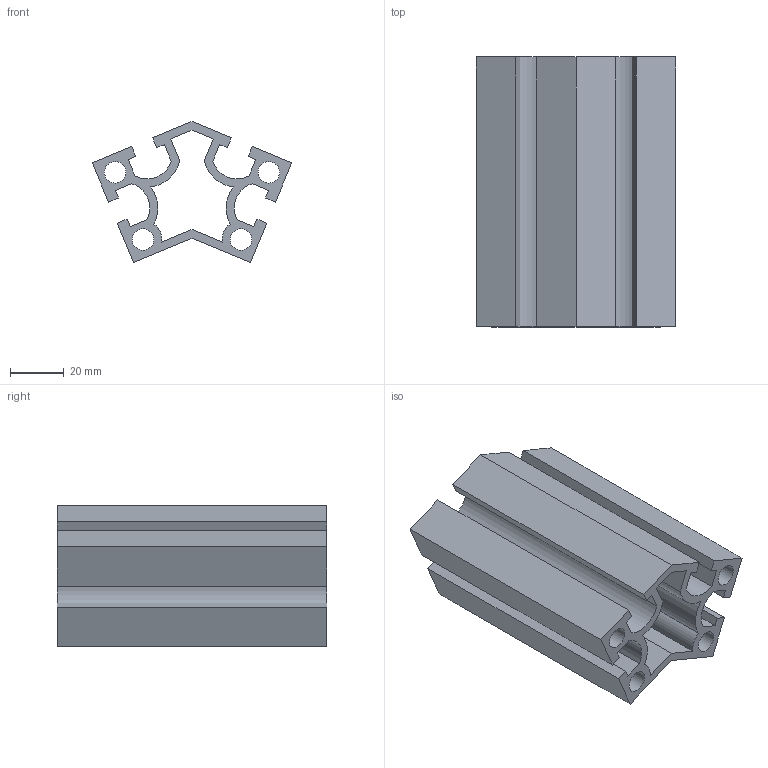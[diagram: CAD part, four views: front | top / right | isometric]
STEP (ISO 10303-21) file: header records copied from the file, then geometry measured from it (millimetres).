
FILE_DESCRIPTION(/* description */ ('Unknown'),/* implementation_level */ '2;1');
FILE_NAME(/* name */ 'NMW40135',/* time_stamp */ '2026-08-31T13:18:57+08:00',/* author */ ('Unknown'),/* organization */ ('Unknown'),/* preprocessor_version */ 'ST-DEVELOPER v16.7',/* originating_system */ 'DEX',/* authorisation */ $);
FILE_SCHEMA (('AUTOMOTIVE_DESIGN {1 0 10303 214 3 1 1}'));
Length unit declared in the file: millimetre
Products named in the file (1): NMW40135
Bounding box: 73.91 x 100 x 52.26 mm (x, y, z)
Volume: 93397.5 mm3; surface area: 60231.4 mm2
Topology: 1 solids, 1 shells, 56 faces, 162 edges, 108 vertices
Faces by surface type: plane 42, cylinder 14
Full cylindrical faces by diameter (mm): 8 x4
Entity records: 1864 total; most frequent: CARTESIAN_POINT 323, ORIENTED_EDGE 316, DIRECTION 300, EDGE_CURVE 158, LINE 130, VECTOR 130, VERTEX_POINT 108, AXIS2_PLACEMENT_3D 85
